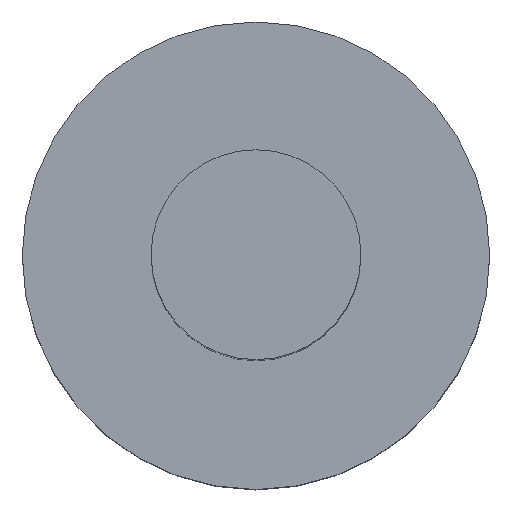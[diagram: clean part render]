
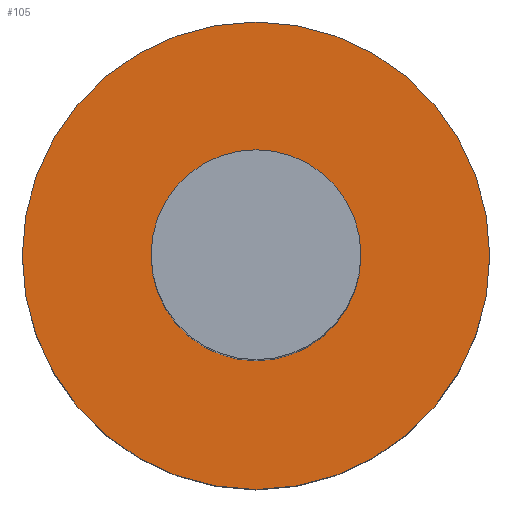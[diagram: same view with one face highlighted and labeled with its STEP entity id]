
A CAD part, top view. The second image highlights one B-rep face of the part: STEP entity #105.
In plain terms, the highlighted planar face has unit normal (0, 0, 1).
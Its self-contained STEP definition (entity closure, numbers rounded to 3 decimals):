
#21 = EDGE_CURVE('',#22,#22,#24,.T.);
#22 = VERTEX_POINT('',#23);
#23 = CARTESIAN_POINT('',(2.25,0.,-18.9));
#24 = SURFACE_CURVE('',#25,(#30,#42),.PCURVE_S1.);
#25 = CIRCLE('',#26,2.25);
#26 = AXIS2_PLACEMENT_3D('',#27,#28,#29);
#27 = CARTESIAN_POINT('',(0.,0.,-18.9));
#28 = DIRECTION('',(0.,0.,1.));
#29 = DIRECTION('',(1.,0.,-0.));
#30 = PCURVE('',#31,#36);
#31 = CYLINDRICAL_SURFACE('',#32,2.25);
#32 = AXIS2_PLACEMENT_3D('',#33,#34,#35);
#33 = CARTESIAN_POINT('',(0.,0.,-21.4));
#34 = DIRECTION('',(0.,0.,1.));
#35 = DIRECTION('',(1.,0.,-0.));
#36 = DEFINITIONAL_REPRESENTATION('',(#37),#41);
#37 = LINE('',#38,#39);
#38 = CARTESIAN_POINT('',(0.,2.5));
#39 = VECTOR('',#40,1.);
#40 = DIRECTION('',(1.,0.));
#41 = ( GEOMETRIC_REPRESENTATION_CONTEXT(2) 
PARAMETRIC_REPRESENTATION_CONTEXT() REPRESENTATION_CONTEXT('2D SPACE',''
  ) );
#42 = PCURVE('',#43,#48);
#43 = PLANE('',#44);
#44 = AXIS2_PLACEMENT_3D('',#45,#46,#47);
#45 = CARTESIAN_POINT('',(0.,0.,-18.9));
#46 = DIRECTION('',(0.,0.,1.));
#47 = DIRECTION('',(1.,0.,-0.));
#48 = DEFINITIONAL_REPRESENTATION('',(#49),#53);
#49 = CIRCLE('',#50,2.25);
#50 = AXIS2_PLACEMENT_2D('',#51,#52);
#51 = CARTESIAN_POINT('',(0.,0.));
#52 = DIRECTION('',(1.,0.));
#53 = ( GEOMETRIC_REPRESENTATION_CONTEXT(2) 
PARAMETRIC_REPRESENTATION_CONTEXT() REPRESENTATION_CONTEXT('2D SPACE',''
  ) );
#105 = ADVANCED_FACE('',(#106,#109),#43,.T.);
#106 = FACE_BOUND('',#107,.T.);
#107 = EDGE_LOOP('',(#108));
#108 = ORIENTED_EDGE('',*,*,#21,.T.);
#109 = FACE_BOUND('',#110,.T.);
#110 = EDGE_LOOP('',(#111));
#111 = ORIENTED_EDGE('',*,*,#112,.F.);
#112 = EDGE_CURVE('',#113,#113,#115,.T.);
#113 = VERTEX_POINT('',#114);
#114 = CARTESIAN_POINT('',(1.01,0.,-18.9));
#115 = SURFACE_CURVE('',#116,(#121,#128),.PCURVE_S1.);
#116 = CIRCLE('',#117,1.01);
#117 = AXIS2_PLACEMENT_3D('',#118,#119,#120);
#118 = CARTESIAN_POINT('',(0.,0.,-18.9));
#119 = DIRECTION('',(0.,0.,1.));
#120 = DIRECTION('',(1.,0.,-0.));
#121 = PCURVE('',#43,#122);
#122 = DEFINITIONAL_REPRESENTATION('',(#123),#127);
#123 = CIRCLE('',#124,1.01);
#124 = AXIS2_PLACEMENT_2D('',#125,#126);
#125 = CARTESIAN_POINT('',(0.,0.));
#126 = DIRECTION('',(1.,0.));
#127 = ( GEOMETRIC_REPRESENTATION_CONTEXT(2) 
PARAMETRIC_REPRESENTATION_CONTEXT() REPRESENTATION_CONTEXT('2D SPACE',''
  ) );
#128 = PCURVE('',#129,#134);
#129 = CYLINDRICAL_SURFACE('',#130,1.01);
#130 = AXIS2_PLACEMENT_3D('',#131,#132,#133);
#131 = CARTESIAN_POINT('',(0.,0.,-18.9));
#132 = DIRECTION('',(0.,0.,1.));
#133 = DIRECTION('',(1.,0.,-0.));
#134 = DEFINITIONAL_REPRESENTATION('',(#135),#139);
#135 = LINE('',#136,#137);
#136 = CARTESIAN_POINT('',(0.,0.));
#137 = VECTOR('',#138,1.);
#138 = DIRECTION('',(1.,0.));
#139 = ( GEOMETRIC_REPRESENTATION_CONTEXT(2) 
PARAMETRIC_REPRESENTATION_CONTEXT() REPRESENTATION_CONTEXT('2D SPACE',''
  ) );
